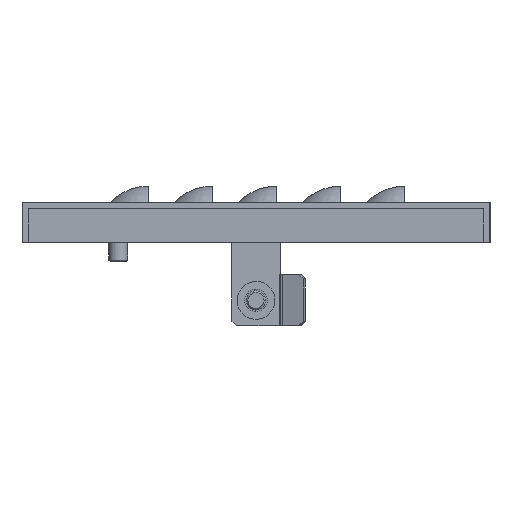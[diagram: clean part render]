
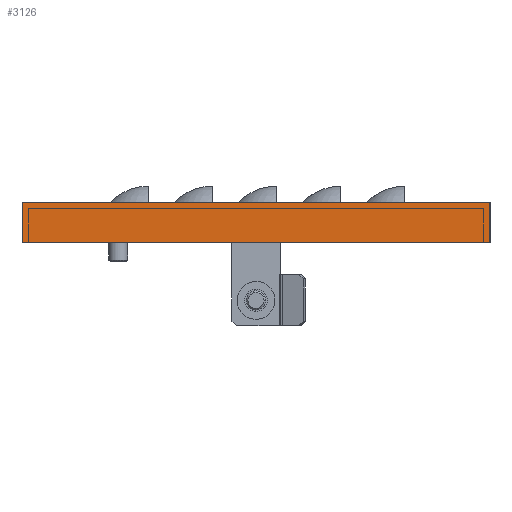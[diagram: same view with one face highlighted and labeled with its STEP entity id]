
A CAD part, left-side view. The second image highlights one B-rep face of the part: STEP entity #3126.
In plain terms, the highlighted planar face has unit normal (-1, 0, 0).
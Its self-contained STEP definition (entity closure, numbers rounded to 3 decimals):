
#421 = ORIENTED_EDGE ( 'NONE', *, *, #24762, .F. ) ;
#946 = VERTEX_POINT ( 'NONE', #16228 ) ;
#1083 = LINE ( 'NONE', #14888, #11196 ) ;
#2366 = AXIS2_PLACEMENT_3D ( 'NONE', #23434, #9311, #8249 ) ;
#2500 = LINE ( 'NONE', #24807, #28782 ) ;
#3125 = VERTEX_POINT ( 'NONE', #4869 ) ;
#3126 = ADVANCED_FACE ( 'NONE', ( #7373 ), #5295, .F. ) ;
#4869 = CARTESIAN_POINT ( 'NONE',  ( -995., -146., 0. ) ) ;
#5295 = PLANE ( 'NONE',  #2366 ) ;
#6372 = VECTOR ( 'NONE', #7371, 1000. ) ;
#7194 = LINE ( 'NONE', #25044, #18954 ) ;
#7371 = DIRECTION ( 'NONE',  ( 0., 1., 0. ) ) ;
#7373 = FACE_OUTER_BOUND ( 'NONE', #14887, .T. ) ;
#8249 = DIRECTION ( 'NONE',  ( 0., 1., 0. ) ) ;
#8543 = EDGE_CURVE ( 'NONE', #3125, #16311, #25362, .T. ) ;
#9023 = CARTESIAN_POINT ( 'NONE',  ( -995., -73., 0. ) ) ;
#9311 = DIRECTION ( 'NONE',  ( 1., 0., 0. ) ) ;
#9563 = DIRECTION ( 'NONE',  ( 0., -1., 0. ) ) ;
#10957 = DIRECTION ( 'NONE',  ( 0., 0., -1. ) ) ;
#11196 = VECTOR ( 'NONE', #23530, 1000. ) ;
#11275 = EDGE_CURVE ( 'NONE', #16311, #28909, #2500, .T. ) ;
#12131 = CARTESIAN_POINT ( 'NONE',  ( -995., 0., 0. ) ) ;
#14887 = EDGE_LOOP ( 'NONE', ( #19984, #27930, #24659, #421 ) ) ;
#14888 = CARTESIAN_POINT ( 'NONE',  ( -995., -146., 2.928 ) ) ;
#15089 = CARTESIAN_POINT ( 'NONE',  ( -995., 0., -12.5 ) ) ;
#16228 = CARTESIAN_POINT ( 'NONE',  ( -995., -146., -12.5 ) ) ;
#16311 = VERTEX_POINT ( 'NONE', #12131 ) ;
#18954 = VECTOR ( 'NONE', #9563, 1000. ) ;
#19984 = ORIENTED_EDGE ( 'NONE', *, *, #8543, .T. ) ;
#23434 = CARTESIAN_POINT ( 'NONE',  ( -995., -73., -2. ) ) ;
#23530 = DIRECTION ( 'NONE',  ( 0., 0., -1. ) ) ;
#24659 = ORIENTED_EDGE ( 'NONE', *, *, #27505, .T. ) ;
#24762 = EDGE_CURVE ( 'NONE', #3125, #946, #1083, .T. ) ;
#24807 = CARTESIAN_POINT ( 'NONE',  ( -995., 0., 2.928 ) ) ;
#25044 = CARTESIAN_POINT ( 'NONE',  ( -995., -73., -12.5 ) ) ;
#25362 = LINE ( 'NONE', #9023, #6372 ) ;
#27505 = EDGE_CURVE ( 'NONE', #28909, #946, #7194, .T. ) ;
#27930 = ORIENTED_EDGE ( 'NONE', *, *, #11275, .T. ) ;
#28782 = VECTOR ( 'NONE', #10957, 1000. ) ;
#28909 = VERTEX_POINT ( 'NONE', #15089 ) ;
